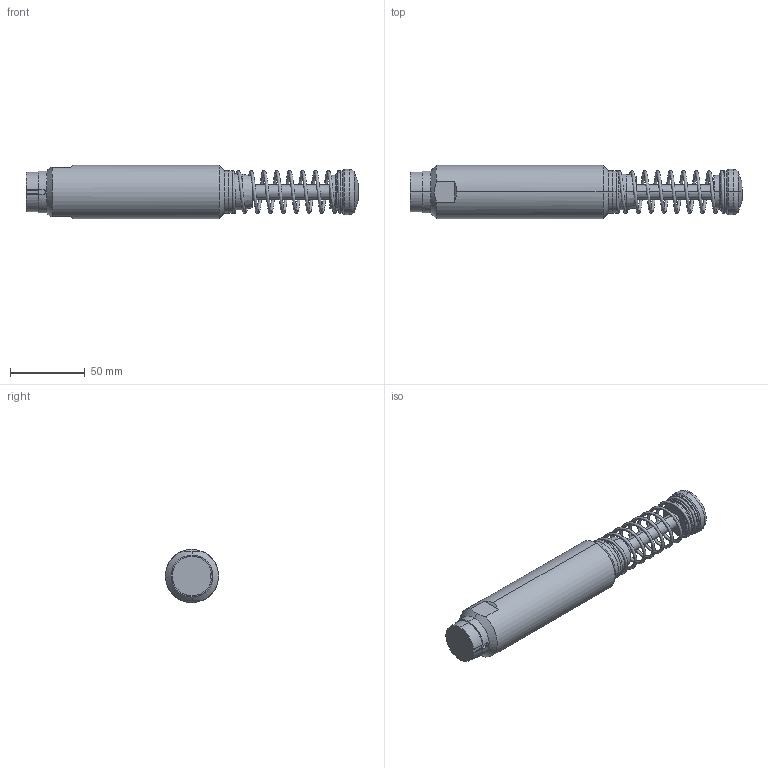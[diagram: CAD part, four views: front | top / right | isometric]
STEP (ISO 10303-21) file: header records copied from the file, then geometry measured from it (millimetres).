
FILE_DESCRIPTION (( 'STEP AP214' ), '1' );
FILE_NAME ('OEM_125X2.STEP', '2010-07-29T15:30:20', ( ' ' ), ( '' ), 'SwSTEP 2.0', 'SolidWorks 2006233', '' );
FILE_SCHEMA (( 'AUTOMOTIVE_DESIGN' ));
Length unit declared in the file: inch
Products named in the file (1): OEM_125X2
Bounding box: 222.05 x 35.56 x 35.56 mm (x, y, z)
Volume: 86986 mm3; surface area: 46064.1 mm2
Topology: 9 solids, 9 shells, 244 faces, 527 edges, 318 vertices
Faces by surface type: cylinder 85, plane 56, cone 56, torus 36, bspline 11
Entity records: 17849 total; most frequent: CARTESIAN_POINT 9220, DIRECTION 1185, ORIENTED_EDGE 1046, EDGE_CURVE 523, AXIS2_PLACEMENT_3D 501, VERTEX_POINT 318, EDGE_LOOP 277, CIRCLE 267
